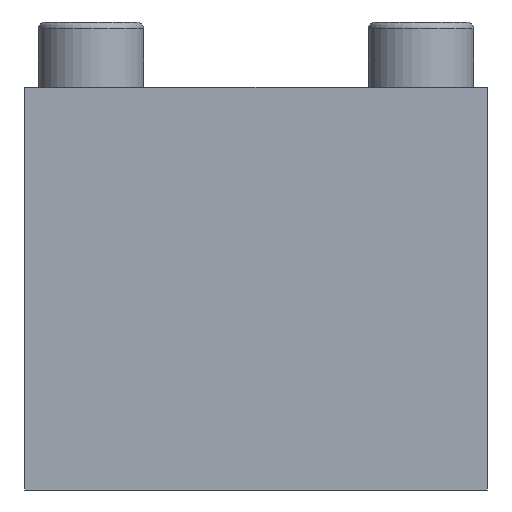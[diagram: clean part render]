
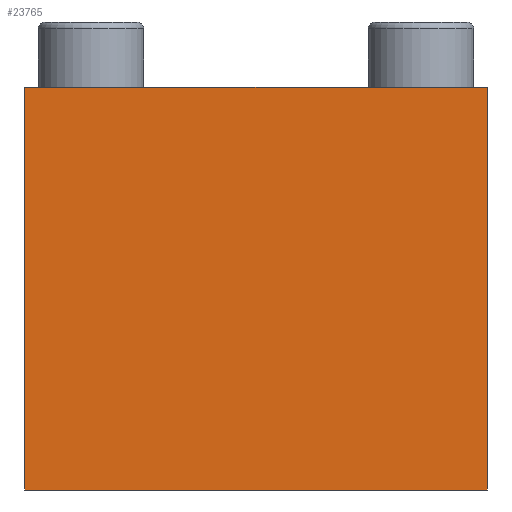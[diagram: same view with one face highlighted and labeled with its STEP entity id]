
A CAD part, front view. The second image highlights one B-rep face of the part: STEP entity #23765.
In plain terms, the highlighted planar face has unit normal (0, -1, 0).
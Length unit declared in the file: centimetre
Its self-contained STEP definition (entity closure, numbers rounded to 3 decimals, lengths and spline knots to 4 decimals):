
#1300=FACE_OUTER_BOUND('',#2678,.T.);
#2678=EDGE_LOOP('',(#15778,#15779,#15780,#15781));
#4018=LINE('',#30749,#6622);
#4684=LINE('',#33335,#7288);
#4687=LINE('',#33341,#7291);
#4688=LINE('',#33342,#7292);
#6622=VECTOR('',#26077,7.);
#7288=VECTOR('',#26791,6.1);
#7291=VECTOR('',#26796,6.1);
#7292=VECTOR('',#26797,7.);
#9226=VERTEX_POINT('',#30746);
#9227=VERTEX_POINT('',#30748);
#10155=VERTEX_POINT('',#33334);
#10157=VERTEX_POINT('',#33340);
#11482=EDGE_CURVE('',#9226,#9227,#4018,.T.);
#12411=EDGE_CURVE('',#9226,#10155,#4684,.T.);
#12414=EDGE_CURVE('',#9227,#10157,#4687,.T.);
#12415=EDGE_CURVE('',#10157,#10155,#4688,.T.);
#15778=ORIENTED_EDGE('',*,*,#12414,.F.);
#15779=ORIENTED_EDGE('',*,*,#11482,.F.);
#15780=ORIENTED_EDGE('',*,*,#12411,.T.);
#15781=ORIENTED_EDGE('',*,*,#12415,.F.);
#21569=PLANE('',#25064);
#23765=ADVANCED_FACE('',(#1300),#21569,.T.);
#25064=AXIS2_PLACEMENT_3D('',#33339,#26794,#26795);
#26077=DIRECTION('',(1.,0.,0.));
#26791=DIRECTION('',(0.,0.,-1.));
#26794=DIRECTION('center_axis',(0.,-1.,0.));
#26795=DIRECTION('ref_axis',(-1.,0.,0.));
#26796=DIRECTION('',(0.,0.,-1.));
#26797=DIRECTION('',(-1.,0.,0.));
#30746=CARTESIAN_POINT('',(-3.5,-17.5,4.85));
#30748=CARTESIAN_POINT('',(3.5,-17.5,4.85));
#30749=CARTESIAN_POINT('',(3.5,-17.5,4.85));
#33334=CARTESIAN_POINT('',(-3.5,-17.5,-1.25));
#33335=CARTESIAN_POINT('',(-3.5,-17.5,0.));
#33339=CARTESIAN_POINT('Origin',(3.5,-17.5,3.6));
#33340=CARTESIAN_POINT('',(3.5,-17.5,-1.25));
#33341=CARTESIAN_POINT('',(3.5,-17.5,0.));
#33342=CARTESIAN_POINT('',(3.5,-17.5,-1.25));
